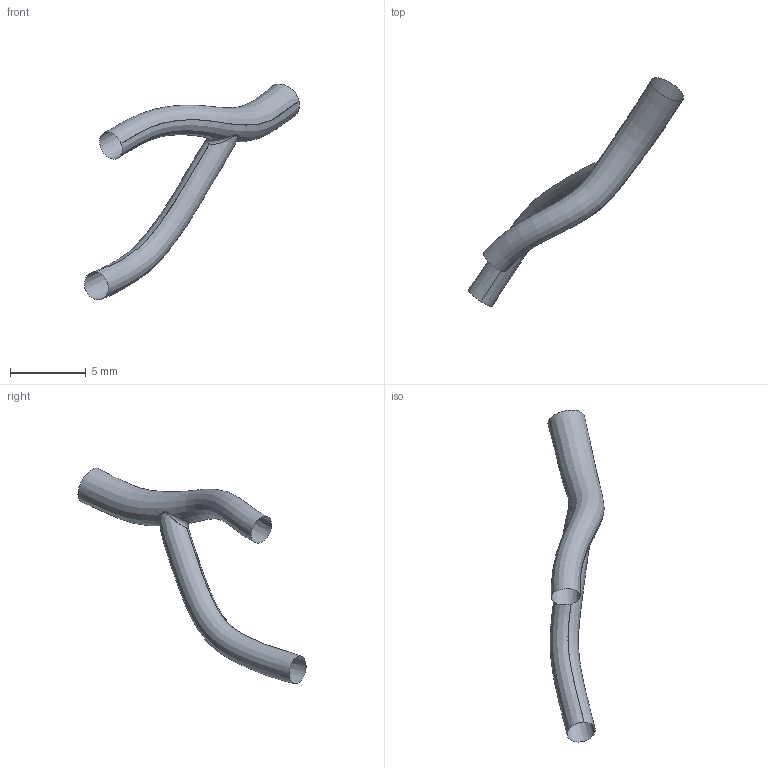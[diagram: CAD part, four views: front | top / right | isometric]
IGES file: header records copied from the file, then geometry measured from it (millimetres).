
Global section: file name: C:\Documents and Settings\Administrator\Desktop\FDA-Pig\Domestic LCA\Pig_000011\om.ed.igs; native system: Rhinoceros ( May 19 2006 ); preprocessor: Trout Lake IGES 012 May 19 2006; date: 111205.184025; units: centimetre
Bounding box: 14.22 x 15.09 x 14.27 mm (x, y, z)
Surface area: 206.7 mm2 (no closed solid volume)
Topology: 0 solids, 0 shells, 3 faces, 64 edges, 61 vertices
Faces by surface type: bspline 3
